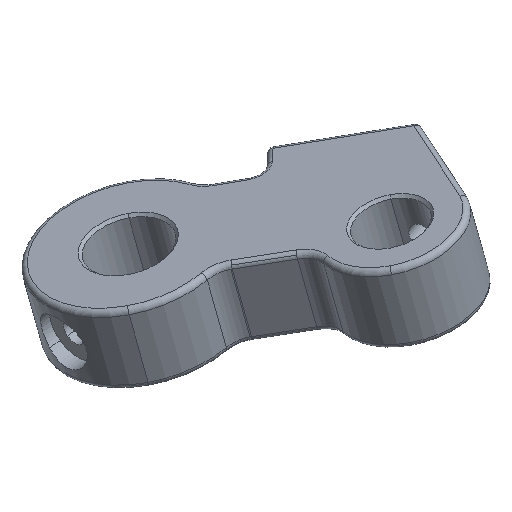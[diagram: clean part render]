
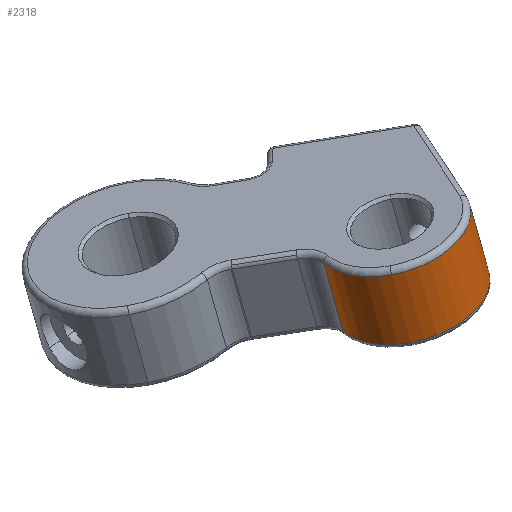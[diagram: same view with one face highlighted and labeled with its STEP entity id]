
A CAD part, front view. The second image highlights one B-rep face of the part: STEP entity #2318.
In plain terms, the highlighted cylindrical face has radius 24.488 mm (diameter 48.976 mm), a partial arc.
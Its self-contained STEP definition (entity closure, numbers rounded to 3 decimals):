
#64 = CARTESIAN_POINT ( 'NONE',  ( 164.1, -70.907, -307.382 ) ) ;
#162 = CARTESIAN_POINT ( 'NONE',  ( 169.844, -75.473, -342.337 ) ) ;
#168 = CARTESIAN_POINT ( 'NONE',  ( 163.658, -72.069, -305.816 ) ) ;
#199 = DIRECTION ( 'NONE',  ( 0., -0.803, -0.596 ) ) ;
#273 = AXIS2_PLACEMENT_3D ( 'NONE', #1968, #1369, #199 ) ;
#289 = ORIENTED_EDGE ( 'NONE', *, *, #1199, .T. ) ;
#314 = CIRCLE ( 'NONE', #333, 24.488 ) ;
#324 = VERTEX_POINT ( 'NONE', #645 ) ;
#333 = AXIS2_PLACEMENT_3D ( 'NONE', #765, #556, #1350 ) ;
#388 = DIRECTION ( 'NONE',  ( 0.221, 0.581, -0.783 ) ) ;
#431 = VECTOR ( 'NONE', #493, 1000. ) ;
#470 = AXIS2_PLACEMENT_3D ( 'NONE', #2099, #1109, #538 ) ;
#493 = DIRECTION ( 'NONE',  ( 0.221, 0.581, -0.783 ) ) ;
#538 = DIRECTION ( 'NONE',  ( 0., -0.803, -0.596 ) ) ;
#556 = DIRECTION ( 'NONE',  ( -0.221, -0.581, 0.783 ) ) ;
#585 = VERTEX_POINT ( 'NONE', #988 ) ;
#645 = CARTESIAN_POINT ( 'NONE',  ( 143.652, -78.312, -318.64 ) ) ;
#696 = LINE ( 'NONE', #1241, #431 ) ;
#720 = AXIS2_PLACEMENT_3D ( 'NONE', #64, #2405, #1249 ) ;
#731 = FACE_OUTER_BOUND ( 'NONE', #1976, .T. ) ;
#765 = CARTESIAN_POINT ( 'NONE',  ( 169.844, -55.803, -327.751 ) ) ;
#774 = LINE ( 'NONE', #1588, #2415 ) ;
#795 = CIRCLE ( 'NONE', #720, 24.488 ) ;
#819 = EDGE_CURVE ( 'NONE', #2045, #324, #1530, .T. ) ;
#920 = CARTESIAN_POINT ( 'NONE',  ( 149.396, -63.207, -339.008 ) ) ;
#939 = ORIENTED_EDGE ( 'NONE', *, *, #819, .T. ) ;
#988 = CARTESIAN_POINT ( 'NONE',  ( 192.751, -53.326, -319.454 ) ) ;
#1109 = DIRECTION ( 'NONE',  ( 0.221, 0.581, -0.783 ) ) ;
#1121 = VERTEX_POINT ( 'NONE', #2393 ) ;
#1199 = EDGE_CURVE ( 'NONE', #1121, #2045, #795, .T. ) ;
#1241 = CARTESIAN_POINT ( 'NONE',  ( 186.565, -69.593, -297.519 ) ) ;
#1249 = DIRECTION ( 'NONE',  ( 0., -0.803, -0.596 ) ) ;
#1310 = EDGE_CURVE ( 'NONE', #1568, #585, #1494, .T. ) ;
#1350 = DIRECTION ( 'NONE',  ( 0., -0.803, -0.596 ) ) ;
#1369 = DIRECTION ( 'NONE',  ( -0.221, -0.581, 0.783 ) ) ;
#1494 = CIRCLE ( 'NONE', #273, 24.488 ) ;
#1496 = CYLINDRICAL_SURFACE ( 'NONE', #2251, 24.488 ) ;
#1530 = CIRCLE ( 'NONE', #470, 24.488 ) ;
#1556 = ORIENTED_EDGE ( 'NONE', *, *, #1310, .T. ) ;
#1568 = VERTEX_POINT ( 'NONE', #162 ) ;
#1588 = CARTESIAN_POINT ( 'NONE',  ( 143.21, -79.473, -317.073 ) ) ;
#1701 = DIRECTION ( 'NONE',  ( 0.221, 0.581, -0.783 ) ) ;
#1778 = ORIENTED_EDGE ( 'NONE', *, *, #2101, .F. ) ;
#1912 = VERTEX_POINT ( 'NONE', #920 ) ;
#1968 = CARTESIAN_POINT ( 'NONE',  ( 169.844, -55.803, -327.751 ) ) ;
#1976 = EDGE_LOOP ( 'NONE', ( #2195, #2073, #1556, #1778, #289, #939 ) ) ;
#2045 = VERTEX_POINT ( 'NONE', #2361 ) ;
#2073 = ORIENTED_EDGE ( 'NONE', *, *, #2247, .T. ) ;
#2099 = CARTESIAN_POINT ( 'NONE',  ( 164.1, -70.907, -307.382 ) ) ;
#2101 = EDGE_CURVE ( 'NONE', #1121, #585, #696, .T. ) ;
#2195 = ORIENTED_EDGE ( 'NONE', *, *, #2449, .T. ) ;
#2247 = EDGE_CURVE ( 'NONE', #1912, #1568, #314, .T. ) ;
#2251 = AXIS2_PLACEMENT_3D ( 'NONE', #168, #1701, #2305 ) ;
#2305 = DIRECTION ( 'NONE',  ( 0., 0.803, 0.596 ) ) ;
#2318 = ADVANCED_FACE ( 'NONE', ( #731 ), #1496, .T. ) ;
#2361 = CARTESIAN_POINT ( 'NONE',  ( 164.1, -90.577, -321.969 ) ) ;
#2393 = CARTESIAN_POINT ( 'NONE',  ( 187.007, -68.431, -299.086 ) ) ;
#2405 = DIRECTION ( 'NONE',  ( 0.221, 0.581, -0.783 ) ) ;
#2415 = VECTOR ( 'NONE', #388, 1000. ) ;
#2449 = EDGE_CURVE ( 'NONE', #324, #1912, #774, .T. ) ;
